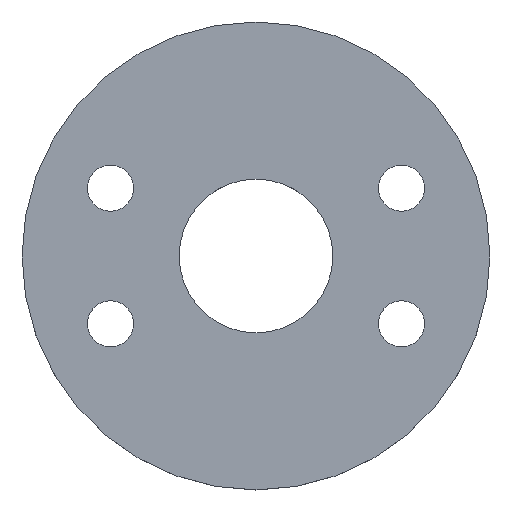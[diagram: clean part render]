
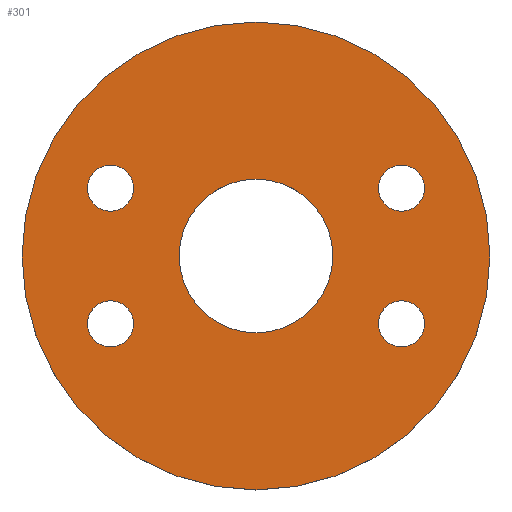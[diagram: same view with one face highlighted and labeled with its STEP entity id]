
A CAD part, top view. The second image highlights one B-rep face of the part: STEP entity #301.
In plain terms, the highlighted planar face has unit normal (0, 0, 1).
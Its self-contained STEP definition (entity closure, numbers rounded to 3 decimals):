
#2 = CARTESIAN_POINT ( 'NONE',  ( 0., 0., 10. ) ) ;
#13 = DIRECTION ( 'NONE',  ( 1., 0., 0. ) ) ;
#17 = CARTESIAN_POINT ( 'NONE',  ( 0., 0., 10. ) ) ;
#20 = DIRECTION ( 'NONE',  ( 0., 0., 1. ) ) ;
#25 = EDGE_CURVE ( 'NONE', #47, #316, #338, .T. ) ;
#32 = AXIS2_PLACEMENT_3D ( 'NONE', #57, #331, #333 ) ;
#35 = DIRECTION ( 'NONE',  ( 1., 0., 0. ) ) ;
#37 = VERTEX_POINT ( 'NONE', #501 ) ;
#47 = VERTEX_POINT ( 'NONE', #406 ) ;
#50 = CIRCLE ( 'NONE', #63, 13.5 ) ;
#57 = CARTESIAN_POINT ( 'NONE',  ( 85.193, -39.726, 10. ) ) ;
#59 = DIRECTION ( 'NONE',  ( 1., 0., 0. ) ) ;
#63 = AXIS2_PLACEMENT_3D ( 'NONE', #464, #459, #425 ) ;
#66 = CARTESIAN_POINT ( 'NONE',  ( -137., 0., 10. ) ) ;
#68 = DIRECTION ( 'NONE',  ( -1., 0., 0. ) ) ;
#72 = CIRCLE ( 'NONE', #486, 13.5 ) ;
#74 = CARTESIAN_POINT ( 'NONE',  ( 0., 0., 10. ) ) ;
#82 = CIRCLE ( 'NONE', #341, 137. ) ;
#85 = EDGE_CURVE ( 'NONE', #130, #122, #324, .T. ) ;
#93 = EDGE_CURVE ( 'NONE', #323, #211, #412, .T. ) ;
#95 = ORIENTED_EDGE ( 'NONE', *, *, #133, .F. ) ;
#98 = CIRCLE ( 'NONE', #243, 13.5 ) ;
#103 = FACE_BOUND ( 'NONE', #117, .T. ) ;
#113 = ORIENTED_EDGE ( 'NONE', *, *, #292, .F. ) ;
#114 = AXIS2_PLACEMENT_3D ( 'NONE', #538, #335, #284 ) ;
#117 = EDGE_LOOP ( 'NONE', ( #113, #95 ) ) ;
#119 = EDGE_CURVE ( 'NONE', #316, #47, #50, .T. ) ;
#122 = VERTEX_POINT ( 'NONE', #349 ) ;
#124 = CIRCLE ( 'NONE', #271, 13.5 ) ;
#130 = VERTEX_POINT ( 'NONE', #217 ) ;
#131 = VERTEX_POINT ( 'NONE', #66 ) ;
#133 = EDGE_CURVE ( 'NONE', #278, #37, #72, .T. ) ;
#145 = EDGE_LOOP ( 'NONE', ( #255, #222 ) ) ;
#148 = AXIS2_PLACEMENT_3D ( 'NONE', #481, #20, #35 ) ;
#173 = CARTESIAN_POINT ( 'NONE',  ( 71.693, 39.726, 10. ) ) ;
#178 = CARTESIAN_POINT ( 'NONE',  ( 98.693, -39.726, 10. ) ) ;
#181 = ORIENTED_EDGE ( 'NONE', *, *, #209, .F. ) ;
#191 = CIRCLE ( 'NONE', #530, 137. ) ;
#200 = CARTESIAN_POINT ( 'NONE',  ( 0., 0., 10. ) ) ;
#206 = EDGE_LOOP ( 'NONE', ( #379, #362 ) ) ;
#209 = EDGE_CURVE ( 'NONE', #211, #323, #124, .T. ) ;
#210 = VERTEX_POINT ( 'NONE', #325 ) ;
#211 = VERTEX_POINT ( 'NONE', #353 ) ;
#212 = CARTESIAN_POINT ( 'NONE',  ( -71.693, -39.726, 10. ) ) ;
#217 = CARTESIAN_POINT ( 'NONE',  ( -45., 0., 10. ) ) ;
#218 = EDGE_CURVE ( 'NONE', #281, #506, #291, .T. ) ;
#222 = ORIENTED_EDGE ( 'NONE', *, *, #375, .F. ) ;
#227 = FACE_BOUND ( 'NONE', #365, .T. ) ;
#243 = AXIS2_PLACEMENT_3D ( 'NONE', #351, #311, #13 ) ;
#255 = ORIENTED_EDGE ( 'NONE', *, *, #85, .F. ) ;
#261 = ORIENTED_EDGE ( 'NONE', *, *, #218, .F. ) ;
#271 = AXIS2_PLACEMENT_3D ( 'NONE', #359, #414, #417 ) ;
#278 = VERTEX_POINT ( 'NONE', #173 ) ;
#279 = EDGE_LOOP ( 'NONE', ( #261, #298 ) ) ;
#281 = VERTEX_POINT ( 'NONE', #178 ) ;
#284 = DIRECTION ( 'NONE',  ( 1., 0., 0. ) ) ;
#291 = CIRCLE ( 'NONE', #32, 13.5 ) ;
#292 = EDGE_CURVE ( 'NONE', #37, #278, #98, .T. ) ;
#295 = ORIENTED_EDGE ( 'NONE', *, *, #119, .F. ) ;
#298 = ORIENTED_EDGE ( 'NONE', *, *, #535, .F. ) ;
#299 = EDGE_LOOP ( 'NONE', ( #295, #434 ) ) ;
#301 = ADVANCED_FACE ( 'NONE', ( #227, #320, #448, #103, #540, #440 ), #327, .T. ) ;
#311 = DIRECTION ( 'NONE',  ( 0., 0., 1. ) ) ;
#315 = ORIENTED_EDGE ( 'NONE', *, *, #93, .F. ) ;
#316 = VERTEX_POINT ( 'NONE', #212 ) ;
#319 = AXIS2_PLACEMENT_3D ( 'NONE', #17, #490, #489 ) ;
#320 = FACE_BOUND ( 'NONE', #299, .T. ) ;
#321 = DIRECTION ( 'NONE',  ( -1., 0., 0. ) ) ;
#323 = VERTEX_POINT ( 'NONE', #484 ) ;
#324 = CIRCLE ( 'NONE', #148, 45. ) ;
#325 = CARTESIAN_POINT ( 'NONE',  ( 137., 0., 10. ) ) ;
#327 = PLANE ( 'NONE',  #319 ) ;
#331 = DIRECTION ( 'NONE',  ( 0., 0., 1. ) ) ;
#333 = DIRECTION ( 'NONE',  ( -1., 0., 0. ) ) ;
#335 = DIRECTION ( 'NONE',  ( 0., 0., 1. ) ) ;
#338 = CIRCLE ( 'NONE', #114, 13.5 ) ;
#341 = AXIS2_PLACEMENT_3D ( 'NONE', #74, #495, #461 ) ;
#349 = CARTESIAN_POINT ( 'NONE',  ( 45., 0., 10. ) ) ;
#351 = CARTESIAN_POINT ( 'NONE',  ( 85.193, 39.726, 10. ) ) ;
#353 = CARTESIAN_POINT ( 'NONE',  ( -98.693, 39.726, 10. ) ) ;
#357 = DIRECTION ( 'NONE',  ( 0., 0., 1. ) ) ;
#359 = CARTESIAN_POINT ( 'NONE',  ( -85.193, 39.726, 10. ) ) ;
#362 = ORIENTED_EDGE ( 'NONE', *, *, #371, .T. ) ;
#365 = EDGE_LOOP ( 'NONE', ( #315, #181 ) ) ;
#371 = EDGE_CURVE ( 'NONE', #210, #131, #191, .T. ) ;
#375 = EDGE_CURVE ( 'NONE', #122, #130, #432, .T. ) ;
#379 = ORIENTED_EDGE ( 'NONE', *, *, #392, .T. ) ;
#381 = DIRECTION ( 'NONE',  ( 0., 0., 1. ) ) ;
#386 = CARTESIAN_POINT ( 'NONE',  ( 71.693, -39.726, 10. ) ) ;
#392 = EDGE_CURVE ( 'NONE', #131, #210, #82, .T. ) ;
#394 = DIRECTION ( 'NONE',  ( 0., 0., 1. ) ) ;
#396 = CARTESIAN_POINT ( 'NONE',  ( -85.193, 39.726, 10. ) ) ;
#406 = CARTESIAN_POINT ( 'NONE',  ( -98.693, -39.726, 10. ) ) ;
#411 = DIRECTION ( 'NONE',  ( 0., 0., 1. ) ) ;
#412 = CIRCLE ( 'NONE', #447, 13.5 ) ;
#414 = DIRECTION ( 'NONE',  ( 0., 0., 1. ) ) ;
#417 = DIRECTION ( 'NONE',  ( -1., 0., 0. ) ) ;
#425 = DIRECTION ( 'NONE',  ( 1., 0., 0. ) ) ;
#428 = CIRCLE ( 'NONE', #466, 13.5 ) ;
#432 = CIRCLE ( 'NONE', #541, 45. ) ;
#434 = ORIENTED_EDGE ( 'NONE', *, *, #25, .F. ) ;
#440 = FACE_BOUND ( 'NONE', #145, .T. ) ;
#441 = CARTESIAN_POINT ( 'NONE',  ( 85.193, 39.726, 10. ) ) ;
#445 = DIRECTION ( 'NONE',  ( 0., 0., 1. ) ) ;
#447 = AXIS2_PLACEMENT_3D ( 'NONE', #396, #357, #68 ) ;
#448 = FACE_BOUND ( 'NONE', #279, .T. ) ;
#451 = DIRECTION ( 'NONE',  ( 1., 0., 0. ) ) ;
#459 = DIRECTION ( 'NONE',  ( 0., 0., 1. ) ) ;
#461 = DIRECTION ( 'NONE',  ( 1., 0., 0. ) ) ;
#464 = CARTESIAN_POINT ( 'NONE',  ( -85.193, -39.726, 10. ) ) ;
#466 = AXIS2_PLACEMENT_3D ( 'NONE', #480, #411, #321 ) ;
#478 = DIRECTION ( 'NONE',  ( 1., 0., 0. ) ) ;
#480 = CARTESIAN_POINT ( 'NONE',  ( 85.193, -39.726, 10. ) ) ;
#481 = CARTESIAN_POINT ( 'NONE',  ( 0., 0., 10. ) ) ;
#484 = CARTESIAN_POINT ( 'NONE',  ( -71.693, 39.726, 10. ) ) ;
#486 = AXIS2_PLACEMENT_3D ( 'NONE', #441, #445, #478 ) ;
#489 = DIRECTION ( 'NONE',  ( 1., 0., 0. ) ) ;
#490 = DIRECTION ( 'NONE',  ( 0., 0., 1. ) ) ;
#495 = DIRECTION ( 'NONE',  ( 0., 0., 1. ) ) ;
#501 = CARTESIAN_POINT ( 'NONE',  ( 98.693, 39.726, 10. ) ) ;
#506 = VERTEX_POINT ( 'NONE', #386 ) ;
#530 = AXIS2_PLACEMENT_3D ( 'NONE', #2, #381, #451 ) ;
#535 = EDGE_CURVE ( 'NONE', #506, #281, #428, .T. ) ;
#538 = CARTESIAN_POINT ( 'NONE',  ( -85.193, -39.726, 10. ) ) ;
#540 = FACE_OUTER_BOUND ( 'NONE', #206, .T. ) ;
#541 = AXIS2_PLACEMENT_3D ( 'NONE', #200, #394, #59 ) ;
